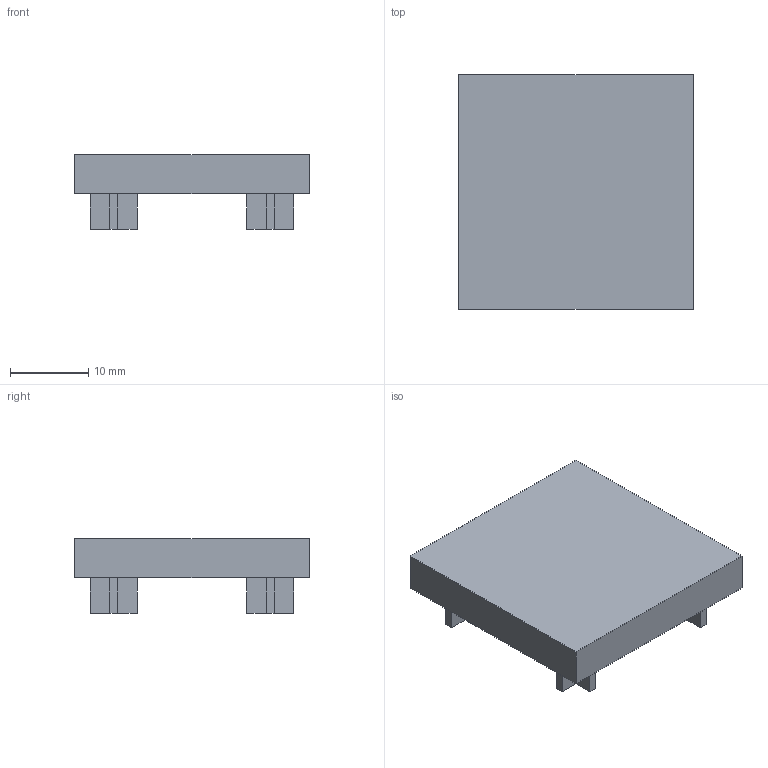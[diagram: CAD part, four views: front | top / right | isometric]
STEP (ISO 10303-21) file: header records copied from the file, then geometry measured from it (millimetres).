
FILE_DESCRIPTION(/* description */ ('Unknown'),/* implementation_level */ '2;1');
FILE_NAME(/* name */ 'CAP3030',/* time_stamp */ '2026-08-31T14:09:26+08:00',/* author */ ('Unknown'),/* organization */ ('Unknown'),/* preprocessor_version */ 'ST-DEVELOPER v16.7',/* originating_system */ 'DEX',/* authorisation */ $);
FILE_SCHEMA (('AUTOMOTIVE_DESIGN {1 0 10303 214 3 1 1}'));
Length unit declared in the file: millimetre
Products named in the file (1): CAP
Bounding box: 30 x 30 x 9.5 mm (x, y, z)
Volume: 1738 mm3; surface area: 3664 mm2
Topology: 1 solids, 1 shells, 63 faces, 168 edges, 112 vertices
Faces by surface type: plane 63
Entity records: 1952 total; most frequent: CARTESIAN_POINT 344, ORIENTED_EDGE 336, DIRECTION 296, EDGE_CURVE 168, LINE 168, VECTOR 168, VERTEX_POINT 112, EDGE_LOOP 68
